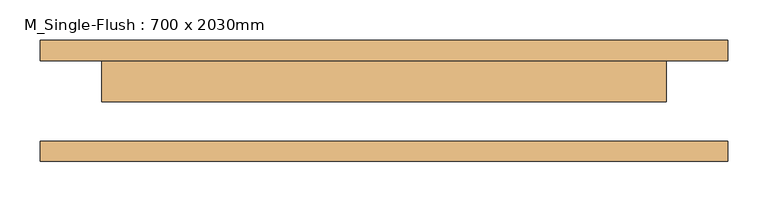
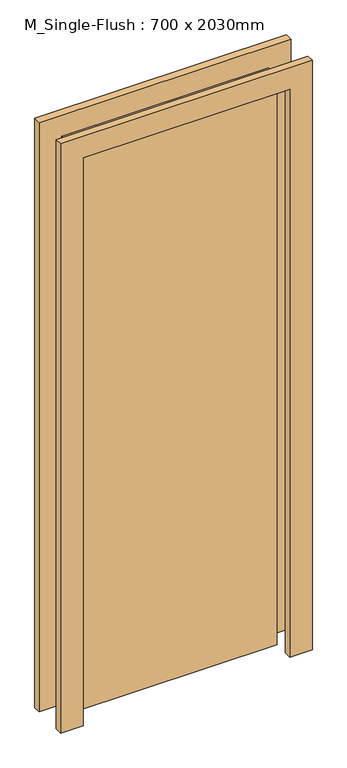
"""IFC4 building model written with IfcOpenShell, lengths in millimetres: door geometry, M_Single-Flush : 700 x 2030mm."""

from ifc_helpers import new_model, si_unit, frame, origin, origin_with_axes, place, context, project, spatial, polyline, outline, extrude, source, transform, mapped, element, save


def m_single_flush_700_x_2030mm_c6211df7(model_context):
    return source(origin(), model_context, "Body", "SweptSolid", [
        extrude(outline(polyline([(2106.0, -426.0), (0.0, -426.0), (0.0, -350.0), (2030.0, -350.0), (2030.0, 350.0), (0.0, 350.0), (0.0, 426.0), (2106.0, 426.0), (2106.0, -426.0)])), frame((0.0, 50.0, 0.0), z_axis=(0.0, 1.0, 0.0), x_axis=(0.0, 0.0, 1.0)), (0.0, 0.0, 1.0), 25.0),
        extrude(outline(polyline([(2106.0, 426.0), (2106.0, -426.0), (0.0, -426.0), (0.0, -350.0), (2030.0, -350.0), (2030.0, 350.0), (0.0, 350.0), (0.0, 426.0), (2106.0, 426.0)])), frame((0.0, -75.0, 0.0), z_axis=(0.0, 1.0, 0.0), x_axis=(0.0, 0.0, 1.0)), (0.0, 0.0, 1.0), 25.0),
        extrude(outline(polyline([(350.0, -1.0), (-350.0, -1.0), (-350.0, 50.0), (350.0, 50.0), (350.0, -1.0)])), origin_with_axes(), (0.0, 0.0, 1.0), 2030.0),
    ])


if __name__ == "__main__":
    model = new_model("IFC4")
    model_context = context("Model", 3, world=origin())
    ifc_project = project(units=[si_unit("LENGTHUNIT", "METRE", prefix="MILLI")], contexts=[model_context])
    site = spatial("IfcSite", under=ifc_project)
    building = spatial("IfcBuilding", under=site)
    placement = place(None, origin())
    m_single_flush_700_x_2030mm_shape = m_single_flush_700_x_2030mm_c6211df7(model_context)
    element("IfcDoor", 1, ObjectType="M_Single-Flush : 700 x 2030mm", at=placement, inside=building, context=model_context, shape_type="MappedRepresentation", body=[
        mapped(m_single_flush_700_x_2030mm_shape, transform((0.0, 0.0, 0.0), x_axis=(1.0, 0.0, 0.0), y_axis=(0.0, 1.0, 0.0), z_axis=(0.0, 0.0, 1.0))),
    ])
    save(model, "model.ifc")
